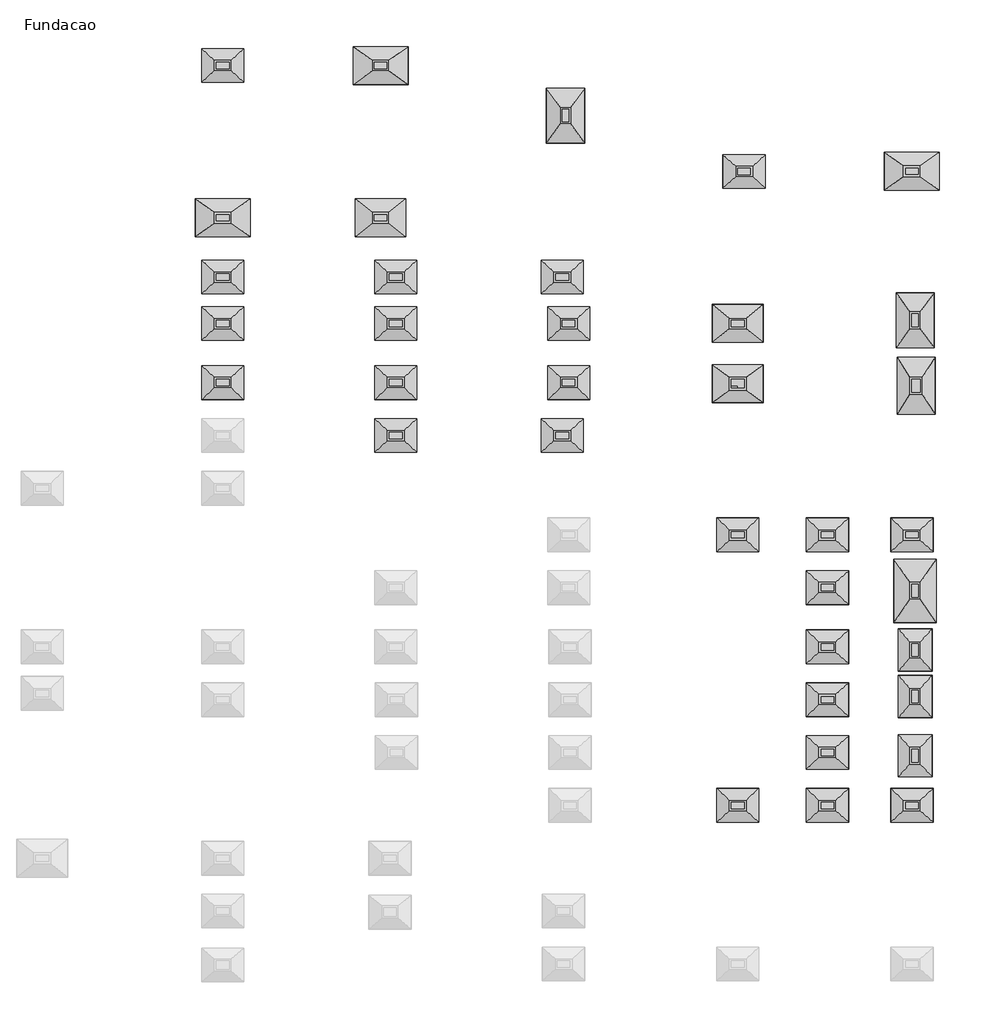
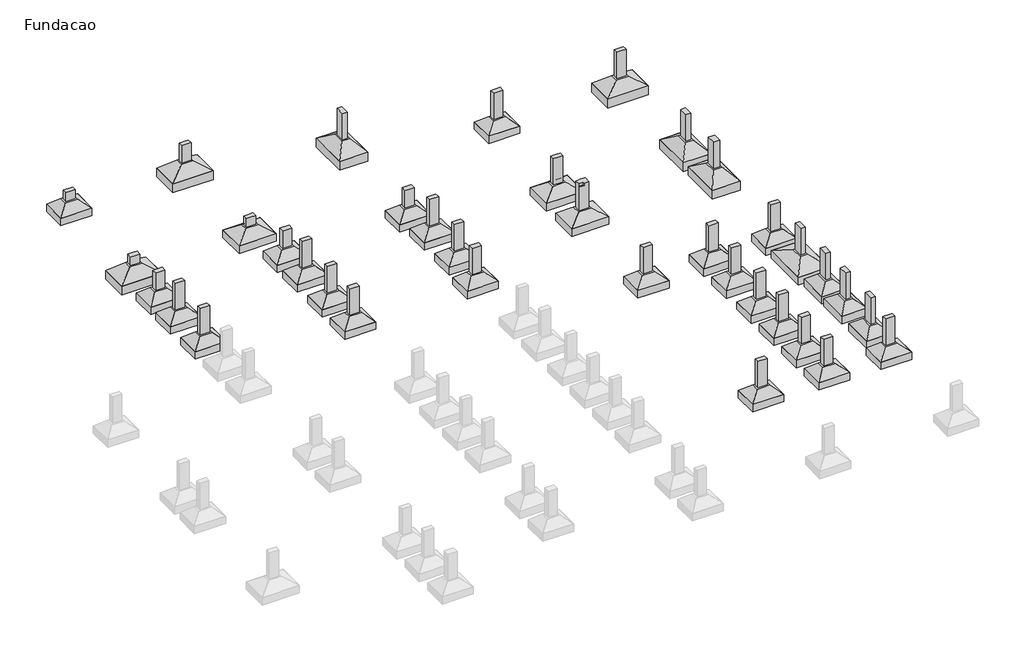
# One storey, part 2 of 2: 36 columns, 36 fasteners.
"""IFC4 building model written with IfcOpenShell, lengths in millimetres."""

from ifc_helpers import new_model, si_unit, origin, place, context, project, spatial, faceted_brep, transform, mapped, element, save
from components import tqs_pilar_retangular_15_0x30_0_0037dfdc, s1_6223030e, s14_25b32baf, s15_ff27a8e9, s19_83dd7731, s20_9b2413b7, s33_03b0cf3e

model = new_model("IFC4")

# Units and contexts
model_context = context("Model", 3, world=origin())
ifc_project = project(units=[si_unit("LENGTHUNIT", "METRE", prefix="MILLI")], contexts=[model_context])

# Site, building, storey
site = spatial("IfcSite", under=ifc_project)
building = spatial("IfcBuilding", under=site)
storey = spatial("IfcBuildingStorey", under=building, Name="Fundacao", Elevation=0.0)

# Columns
placement = place(None, origin())
element("IfcColumn", 1, ObjectType="TQS - Pilar retangular : 15,0x30,0", at=placement, inside=storey, context=model_context, shape_type="Brep", body=[
    faceted_brep([(52120.0, 6220.0, 0.0), (52420.0, 6220.0, 0.0), (52420.0, 6070.0, 0.0), (52120.0, 6070.0, 0.0), (52120.0, 6220.0, 900.0), (52420.0, 6220.0, 900.0), (52420.0, 6220.0, 800.0), (52420.0, 6070.0, 900.0), (52120.0, 6070.0, 900.0)], [[[0, 1, 2, 3]], [[4, 5, 6, 1, 0]], [[5, 7, 2, 1, 6]], [[7, 8, 3, 2]], [[8, 4, 0, 3]], [[4, 8, 7, 5]]]),
])
element("IfcColumn", 2, ObjectType="TQS - Pilar retangular : 15,0x30,0", at=placement, inside=storey, context=model_context, shape_type="Brep", body=[
    faceted_brep([(45850.0, 9820.0, 0.0), (46150.0, 9820.0, 0.0), (46150.0, 9670.0, 0.0), (45850.0, 9670.0, 0.0), (45850.0, 9820.0, 900.0), (46150.0, 9820.0, 900.0), (46150.0, 9820.0, 800.0), (46150.0, 9670.0, 900.0), (46150.0, 9670.0, 800.0), (45850.0, 9670.0, 900.0)], [[[0, 1, 2, 3]], [[4, 5, 6, 1, 0]], [[5, 7, 8, 2, 1, 6]], [[7, 9, 3, 2, 8]], [[9, 4, 0, 3]], [[4, 9, 7, 5]]]),
])
element("IfcColumn", 3, ObjectType="TQS - Pilar retangular : 15,0x30,0", at=placement, inside=storey, context=model_context, shape_type="Brep", body=[
    faceted_brep([(50000.0, 7470.0, 0.0), (50300.0, 7470.0, 0.0), (50300.0, 7320.0, 0.0), (50000.0, 7320.0, 0.0), (50000.0, 7470.0, 900.0), (50150.0, 7470.0, 900.0), (50300.0, 7470.0, 900.0), (50300.0, 7470.0, 500.0), (50000.0, 7470.0, 800.0), (50300.0, 7320.0, 900.0), (50300.0, 7320.0, 500.0), (50000.0, 7320.0, 900.0), (50000.0, 7320.0, 800.0)], [[[0, 1, 2, 3]], [[4, 5, 6, 7, 1, 0, 8]], [[6, 9, 10, 2, 1, 7]], [[9, 11, 12, 3, 2, 10]], [[11, 4, 8, 0, 3, 12]], [[4, 11, 9, 6, 5]]]),
])
element("IfcColumn", 4, ObjectType="TQS - Pilar retangular : 15,0x30,0", at=placement, inside=storey, context=model_context, shape_type="Brep", body=[
    faceted_brep([(52120.0, 7470.0, 0.0), (52420.0, 7470.0, 0.0), (52420.0, 7320.0, 0.0), (52120.0, 7320.0, 0.0), (52120.0, 7470.0, 900.0), (52420.0, 7470.0, 900.0), (52420.0, 7470.0, 500.0), (52120.0, 7470.0, 500.0), (52420.0, 7320.0, 900.0), (52420.0, 7320.0, 800.0), (52420.0, 7320.0, 500.0), (52120.0, 7320.0, 900.0), (52120.0, 7320.0, 500.0)], [[[0, 1, 2, 3]], [[4, 5, 6, 1, 0, 7]], [[5, 8, 9, 10, 2, 1, 6]], [[8, 11, 12, 3, 2, 10, 9]], [[11, 4, 7, 0, 3, 12]], [[4, 11, 8, 5]]]),
])
element("IfcColumn", 5, ObjectType="TQS - Pilar retangular : 15,0x30,0", at=placement, inside=storey, context=model_context, shape_type="Brep", body=[
    faceted_brep([(46000.0, 11070.0, 0.0), (46300.0, 11070.0, 0.0), (46300.0, 10920.0, 0.0), (46000.0, 10920.0, 0.0), (46000.0, 11070.0, 900.0), (46300.0, 11070.0, 900.0), (46300.0, 11070.0, 500.0), (46000.0, 11070.0, 500.0), (46300.0, 10920.0, 900.0), (46300.0, 10920.0, 500.0), (46000.0, 10920.0, 900.0), (46000.0, 10920.0, 800.0), (46000.0, 10920.0, 500.0)], [[[0, 1, 2, 3]], [[4, 5, 6, 1, 0, 7]], [[5, 8, 9, 2, 1, 6]], [[8, 10, 11, 12, 3, 2, 9]], [[10, 4, 7, 0, 3, 12, 11]], [[4, 10, 8, 5]]]),
])
element("IfcColumn", 6, ObjectType="TQS - Pilar retangular : 15,0x30,0", at=placement, inside=storey, context=model_context, shape_type="Brep", body=[
    faceted_brep([(37820.0, 11070.0, 0.0), (38120.0, 11070.0, 0.0), (38120.0, 10920.0, 0.0), (37820.0, 10920.0, 0.0), (37820.0, 11070.0, 900.0), (37970.0, 11070.0, 900.0), (38120.0, 11070.0, 900.0), (38120.0, 11070.0, 500.0), (37820.0, 11070.0, 500.0), (38120.0, 10920.0, 900.0), (38120.0, 10920.0, 500.0), (37820.0, 10920.0, 900.0), (37820.0, 10920.0, 800.0)], [[[0, 1, 2, 3]], [[4, 5, 6, 7, 1, 0, 8]], [[6, 9, 10, 2, 1, 7]], [[9, 11, 12, 3, 2, 10]], [[11, 4, 8, 0, 3, 12]], [[4, 11, 9, 6, 5]]]),
])
element("IfcColumn", 7, ObjectType="TQS - Pilar retangular : 15,0x30,0", at=placement, inside=storey, context=model_context, shape_type="Brep", body=[
    faceted_brep([(41910.0, 11070.0, 0.0), (42210.0, 11070.0, 0.0), (42210.0, 10920.0, 0.0), (41910.0, 10920.0, 0.0), (41910.0, 11070.0, 900.0), (42210.0, 11070.0, 900.0), (42210.0, 11070.0, 500.0), (41910.0, 11070.0, 500.0), (42210.0, 10920.0, 900.0), (42210.0, 10920.0, 500.0), (41910.0, 10920.0, 900.0), (41910.0, 10920.0, 500.0)], [[[0, 1, 2, 3]], [[4, 5, 6, 1, 0, 7]], [[5, 8, 9, 2, 1, 6]], [[8, 10, 11, 3, 2, 9]], [[10, 4, 7, 0, 3, 11]], [[4, 10, 8, 5]]]),
])
element("IfcColumn", 8, ObjectType="TQS - Pilar retangular : 15,0x30,0", at=placement, inside=storey, context=model_context, shape_type="Brep", body=[
    faceted_brep([(37820.0, 12470.0, 0.0), (38120.0, 12470.0, 0.0), (38120.0, 12320.0, 0.0), (37820.0, 12320.0, 0.0), (37820.0, 12470.0, 200.0), (37820.0, 12470.0, 600.0), (37820.0, 12470.0, 900.0), (38120.0, 12470.0, 900.0), (38120.0, 12470.0, 600.0), (38120.0, 12470.0, 500.0), (38120.0, 12320.0, 900.0), (38120.0, 12320.0, 600.0), (38120.0, 12320.0, 500.0), (37970.0, 12320.0, 900.0), (37820.0, 12320.0, 900.0), (37820.0, 12320.0, 500.0)], [[[0, 1, 2, 3]], [[1, 0, 4, 5, 6, 7, 8, 9]], [[2, 1, 9, 8, 7, 10, 11, 12]], [[3, 2, 12, 11, 10, 13, 14, 15]], [[0, 3, 15, 14, 6, 5, 4]], [[7, 6, 14, 13, 10]]]),
])
element("IfcColumn", 9, ObjectType="TQS - Pilar retangular : 15,0x30,0", at=placement, inside=storey, context=model_context, shape_type="Brep", body=[
    faceted_brep([(46000.0, 12470.0, 0.0), (46300.0, 12470.0, 0.0), (46300.0, 12320.0, 0.0), (46000.0, 12320.0, 0.0), (46000.0, 12470.0, 900.0), (46300.0, 12470.0, 900.0), (46300.0, 12470.0, 500.0), (46000.0, 12470.0, 200.0), (46000.0, 12470.0, 600.0), (46300.0, 12320.0, 900.0), (46300.0, 12320.0, 500.0), (46000.0, 12320.0, 900.0), (46000.0, 12320.0, 600.0), (46000.0, 12320.0, 500.0)], [[[0, 1, 2, 3]], [[4, 5, 6, 1, 0, 7, 8]], [[5, 9, 10, 2, 1, 6]], [[9, 11, 12, 13, 3, 2, 10]], [[11, 4, 8, 7, 0, 3, 13, 12]], [[4, 11, 9, 5]]]),
])
element("IfcColumn", 10, ObjectType="TQS - Pilar retangular : 15,0x30,0", at=placement, inside=storey, context=model_context, shape_type="Brep", body=[
    faceted_brep([(50000.0, 12470.0, 0.0), (50300.0, 12470.0, 0.0), (50300.0, 12320.0, 0.0), (50000.0, 12320.0, 0.0), (50000.0, 12470.0, 900.0), (50150.0, 12470.0, 900.0), (50300.0, 12470.0, 900.0), (50300.0, 12470.0, 500.0), (50000.0, 12470.0, 500.0), (50300.0, 12320.0, 900.0), (50300.0, 12320.0, 500.0), (50150.0, 12320.0, 900.0), (50000.0, 12320.0, 900.0), (50000.0, 12320.0, 500.0)], [[[0, 1, 2, 3]], [[4, 5, 6, 7, 1, 0, 8]], [[6, 9, 10, 2, 1, 7]], [[9, 11, 12, 13, 3, 2, 10]], [[12, 4, 8, 0, 3, 13]], [[4, 12, 11, 9, 6, 5]]]),
])
element("IfcColumn", 11, ObjectType="TQS - Pilar retangular : 15,0x30,0", at=placement, inside=storey, context=model_context, shape_type="Brep", body=[
    faceted_brep([(50150.0, 16063.3437467, 0.0), (50450.0, 16063.3437467, 0.0), (50450.0, 15913.3437467, 0.0), (50150.0, 15913.3437467, 0.0), (50150.0, 16063.3437467, 500.0), (50150.0, 16063.3437467, 900.0), (50450.0, 16063.3437467, 900.0), (50450.0, 16063.3437467, 500.0), (50450.0, 15920.0, 900.0), (50450.0, 15913.3437467, 900.0), (50450.0, 15913.3437467, 800.0), (50300.0, 15913.3437467, 900.0), (50150.0, 15913.3437467, 900.0), (50150.0, 15913.3437467, 500.0)], [[[0, 1, 2, 3]], [[1, 0, 4, 5, 6, 7]], [[2, 1, 7, 6, 8, 9, 10]], [[3, 2, 10, 9, 11, 12, 13]], [[0, 3, 13, 12, 5, 4]], [[6, 5, 12, 11, 9, 8]]]),
])
element("IfcColumn", 12, ObjectType="TQS - Pilar retangular : 15,0x30,0", at=placement, inside=storey, context=model_context, shape_type="Brep", body=[
    faceted_brep([(54120.0, 16070.0, 0.0), (54420.0, 16070.0, 0.0), (54420.0, 15920.0, 0.0), (54120.0, 15920.0, 0.0), (54120.0, 16070.0, 900.0), (54420.0, 16070.0, 900.0), (54120.0, 16070.0, 500.0), (54420.0, 15920.0, 900.0), (54420.0, 15920.0, 500.0), (54270.0, 15920.0, 900.0), (54120.0, 15920.0, 900.0), (54120.0, 15920.0, 500.0)], [[[0, 1, 2, 3]], [[4, 5, 1, 0, 6]], [[5, 7, 8, 2, 1]], [[7, 9, 10, 11, 3, 2, 8]], [[10, 4, 6, 0, 3, 11]], [[4, 10, 9, 7, 5]]]),
])
element("IfcColumn", 13, ObjectType="TQS - Pilar retangular : 15,0x30,0", at=placement, inside=storey, context=model_context, shape_type="Brep", body=[
    faceted_brep([(54120.0, 7470.0, 0.0), (54420.0, 7470.0, 0.0), (54420.0, 7320.0, 0.0), (54120.0, 7320.0, 0.0), (54120.0, 7470.0, 900.0), (54270.0, 7470.0, 900.0), (54420.0, 7470.0, 900.0), (54420.0, 7470.0, 500.0), (54120.0, 7470.0, 500.0), (54420.0, 7320.0, 900.0), (54120.0, 7320.0, 900.0), (54120.0, 7320.0, 500.0)], [[[0, 1, 2, 3]], [[4, 5, 6, 7, 1, 0, 8]], [[6, 9, 2, 1, 7]], [[9, 10, 11, 3, 2]], [[10, 4, 8, 0, 3, 11]], [[4, 10, 9, 6, 5]]]),
])
element("IfcColumn", 14, ObjectType="TQS - Pilar retangular : 15,0x30,0", at=placement, inside=storey, context=model_context, shape_type="Brep", body=[
    faceted_brep([(54420.0, 12620.0, 0.0), (54420.0, 12320.0, 0.0), (54270.0, 12320.0, 0.0), (54270.0, 12620.0, 0.0), (54420.0, 12620.0, 900.0), (54420.0, 12320.0, 900.0), (54420.0, 12320.0, 500.0), (54420.0, 12620.0, 500.0), (54270.0, 12320.0, 900.0), (54270.0, 12320.0, 500.0), (54270.0, 12620.0, 900.0), (54270.0, 12620.0, 500.0)], [[[0, 1, 2, 3]], [[4, 5, 6, 1, 0, 7]], [[5, 8, 9, 2, 1, 6]], [[8, 10, 11, 3, 2, 9]], [[10, 4, 7, 0, 3, 11]], [[4, 10, 8, 5]]]),
])
element("IfcColumn", 15, ObjectType="TQS - Pilar retangular : 15,0x30,0", at=placement, inside=storey, context=model_context, shape_type="Brep", body=[
    faceted_brep([(42210.0, 12320.0, 0.0), (41910.0, 12320.0, 0.0), (41910.0, 12470.0, 0.0), (42210.0, 12470.0, 0.0), (42210.0, 12320.0, 500.0), (42210.0, 12320.0, 600.0), (42210.0, 12320.0, 900.0), (41910.0, 12320.0, 900.0), (41910.0, 12320.0, 600.0), (41910.0, 12320.0, 500.0), (41910.0, 12470.0, 900.0), (41910.0, 12470.0, 600.0), (41910.0, 12470.0, 500.0), (42210.0, 12470.0, 900.0), (42210.0, 12470.0, 600.0), (42210.0, 12470.0, 500.0)], [[[0, 1, 2, 3]], [[1, 0, 4, 5, 6, 7, 8, 9]], [[2, 1, 9, 8, 7, 10, 11, 12]], [[3, 2, 12, 11, 10, 13, 14, 15]], [[0, 3, 15, 14, 13, 6, 5, 4]], [[7, 6, 13, 10]]]),
])
element("IfcColumn", 16, ObjectType="TQS - Pilar retangular : 15,0x30,0", at=placement, inside=storey, context=model_context, shape_type="Brep", body=[
    faceted_brep([(42210.0, 13420.0, 0.0), (41910.0, 13420.0, 0.0), (41910.0, 13570.0, 0.0), (42210.0, 13570.0, 0.0), (42210.0, 13420.0, 600.0), (41910.0, 13420.0, 600.0), (41910.0, 13420.0, 200.0), (42210.0, 13420.0, 200.0), (41910.0, 13570.0, 600.0), (41910.0, 13570.0, 200.0), (42210.0, 13570.0, 600.0), (42210.0, 13570.0, 200.0)], [[[0, 1, 2, 3]], [[4, 5, 6, 1, 0, 7]], [[5, 8, 9, 2, 1, 6]], [[8, 10, 11, 3, 2, 9]], [[10, 4, 7, 0, 3, 11]], [[4, 10, 8, 5]]]),
])
element("IfcColumn", 17, ObjectType="TQS - Pilar retangular : 15,0x30,0", at=placement, inside=storey, context=model_context, shape_type="Brep", body=[
    faceted_brep([(46150.0, 13420.0, 0.0), (45850.0, 13420.0, 0.0), (45850.0, 13570.0, 0.0), (46150.0, 13570.0, 0.0), (46150.0, 13420.0, 600.0), (46000.0, 13420.0, 600.0), (45850.0, 13420.0, 600.0), (45850.0, 13420.0, 200.0), (46150.0, 13420.0, 200.0), (45850.0, 13570.0, 600.0), (45850.0, 13570.0, 200.0), (46000.0, 13570.0, 600.0), (46150.0, 13570.0, 600.0), (46150.0, 13570.0, 200.0)], [[[0, 1, 2, 3]], [[4, 5, 6, 7, 1, 0, 8]], [[6, 9, 10, 2, 1, 7]], [[9, 11, 12, 13, 3, 2, 10]], [[12, 4, 8, 0, 3, 13]], [[4, 12, 11, 9, 6, 5]]]),
])
element("IfcColumn", 18, ObjectType="TQS - Pilar retangular : 15,0x30,0", at=placement, inside=storey, context=model_context, shape_type="Brep", body=[
    faceted_brep([(38120.0, 13420.0, 0.0), (37820.0, 13420.0, 0.0), (37820.0, 13570.0, 0.0), (37970.0, 13570.0, 0.0), (38120.0, 13570.0, 0.0), (38120.0, 13420.0, 600.0), (37970.0, 13420.0, 600.0), (37820.0, 13420.0, 600.0), (37820.0, 13420.0, 200.0), (38120.0, 13420.0, 200.0), (37820.0, 13570.0, 600.0), (37820.0, 13570.0, 300.0), (38120.0, 13570.0, 600.0), (38120.0, 13570.0, 200.0)], [[[0, 1, 2, 3, 4]], [[5, 6, 7, 8, 1, 0, 9]], [[7, 10, 11, 2, 1, 8]], [[10, 12, 13, 4, 3, 2, 11]], [[12, 5, 9, 0, 4, 13]], [[5, 12, 10, 7, 6]]]),
])
element("IfcColumn", 19, ObjectType="TQS - Pilar retangular : 15,0x30,0", at=placement, inside=storey, context=model_context, shape_type="Brep", body=[
    faceted_brep([(38120.0, 14820.0, 0.0), (37970.0, 14820.0, 0.0), (37820.0, 14820.0, 0.0), (37820.0, 14970.0, 0.0), (37970.0, 14970.0, 0.0), (38120.0, 14970.0, 0.0), (38120.0, 14820.0, 300.0), (37970.0, 14820.0, 300.0), (37820.0, 14820.0, 300.0), (37820.0, 14970.0, 300.0), (37970.0, 14970.0, 300.0), (38120.0, 14970.0, 300.0)], [[[0, 1, 2, 3, 4, 5]], [[6, 7, 8, 2, 1, 0]], [[8, 9, 3, 2]], [[9, 10, 11, 5, 4, 3]], [[11, 6, 0, 5]], [[6, 11, 10, 9, 8, 7]]]),
])
element("IfcColumn", 20, ObjectType="TQS - Pilar retangular : 15,0x30,0", at=placement, inside=storey, context=model_context, shape_type="Brep", body=[
    faceted_brep([(41850.0, 14820.0, 0.0), (41700.0, 14820.0, 0.0), (41550.0, 14820.0, 0.0), (41550.0, 14970.0, 0.0), (41700.0, 14970.0, 0.0), (41850.0, 14970.0, 0.0), (41850.0, 14820.0, 300.0), (41700.0, 14820.0, 300.0), (41550.0, 14820.0, 300.0), (41550.0, 14970.0, 300.0), (41700.0, 14970.0, 300.0), (41850.0, 14970.0, 300.0)], [[[0, 1, 2, 3, 4, 5]], [[6, 7, 8, 2, 1, 0]], [[8, 9, 3, 2]], [[9, 10, 11, 5, 4, 3]], [[11, 6, 0, 5]], [[6, 11, 10, 9, 8, 7]]]),
])
element("IfcColumn", 21, ObjectType="TQS - Pilar retangular : 15,0x30,0", at=placement, inside=storey, context=model_context, shape_type="Brep", body=[
    faceted_brep([(38120.0, 18420.0, 0.0), (37820.0, 18420.0, 0.0), (37820.0, 18570.0, 0.0), (38120.0, 18570.0, 0.0), (38120.0, 18420.0, 300.0), (37970.0, 18420.0, 300.0), (37820.0, 18420.0, 300.0), (37820.0, 18570.0, 300.0), (38120.0, 18570.0, 300.0)], [[[0, 1, 2, 3]], [[4, 5, 6, 1, 0]], [[6, 7, 2, 1]], [[7, 8, 3, 2]], [[8, 4, 0, 3]], [[4, 8, 7, 6, 5]]]),
])
element("IfcColumn", 22, ObjectType="TQS - Pilar retangular : 15,0x30,0", at=placement, inside=storey, context=model_context, shape_type="Brep", body=[
    faceted_brep([(41850.0, 18420.0, 0.0), (41845.0523457, 18420.0, 0.0), (41700.0, 18420.0, 0.0), (41550.0, 18420.0, 0.0), (41550.0, 18570.0, 0.0), (41700.0, 18570.0, 0.0), (41733.5789117, 18570.0, 0.0), (41850.0, 18570.0, 0.0), (41850.0, 18420.0, 600.0), (41845.0523457, 18420.0, 600.0), (41550.0, 18420.0, 600.0), (41550.0, 18420.0, 300.0), (41850.0, 18420.0, 200.0), (41550.0, 18570.0, 600.0), (41550.0, 18570.0, 300.0), (41733.5789117, 18570.0, 600.0), (41850.0, 18570.0, 600.0), (41850.0, 18570.0, 200.0)], [[[0, 1, 2, 3, 4, 5, 6, 7]], [[8, 9, 10, 11, 3, 2, 1, 0, 12]], [[10, 13, 14, 4, 3, 11]], [[13, 15, 16, 17, 7, 6, 5, 4, 14]], [[16, 8, 12, 0, 7, 17]], [[8, 16, 15, 13, 10, 9]]]),
])
element("IfcColumn", 23, ObjectType="TQS - Pilar retangular : 15,0x30,0", at=placement, inside=storey, context=model_context, shape_type="Brep", body=[
    faceted_brep([(46000.0, 17163.2464716, 0.0), (46000.0, 17463.2464716, 0.0), (46150.0, 17463.2464716, 0.0), (46150.0, 17163.2464716, 0.0), (46000.0, 17163.2464716, 900.0), (46000.0, 17463.2464716, 900.0), (46000.0, 17163.2464716, 200.0), (46000.0, 17163.2464716, 600.0), (46150.0, 17463.2464716, 900.0), (46150.0, 17163.2464716, 900.0), (46150.0, 17163.2464716, 600.0), (46150.0, 17163.2464716, 200.0)], [[[0, 1, 2, 3]], [[4, 5, 1, 0, 6, 7]], [[5, 8, 2, 1]], [[8, 9, 10, 11, 3, 2]], [[9, 4, 7, 6, 0, 3, 11, 10]], [[4, 9, 8, 5]]]),
])
element("IfcColumn", 24, ObjectType="TQS - Pilar retangular : 15,0x30,0", at=placement, inside=storey, context=model_context, shape_type="Brep", body=[
    faceted_brep([(54270.0, 5920.0, 0.0), (54270.0, 6220.0, 0.0), (54420.0, 6220.0, 0.0), (54420.0, 5920.0, 0.0), (54270.0, 5920.0, 900.0), (54270.0, 6220.0, 900.0), (54270.0, 6220.0, 800.0), (54420.0, 6220.0, 900.0), (54420.0, 6220.0, 800.0), (54420.0, 5920.0, 900.0)], [[[0, 1, 2, 3]], [[4, 5, 6, 1, 0]], [[5, 7, 8, 2, 1, 6]], [[7, 9, 3, 2, 8]], [[9, 4, 0, 3]], [[4, 9, 7, 5]]]),
])
tqs_pilar_retangular_15_0x30_0_shape = tqs_pilar_retangular_15_0x30_0_0037dfdc(model_context)
element("IfcColumn", 25, ObjectType="TQS - Pilar retangular : 15,0x30,0", at=placement, inside=storey, context=model_context, shape_type="MappedRepresentation", body=[
    mapped(tqs_pilar_retangular_15_0x30_0_shape, transform((52270.0, 2245.0, 0.0), x_axis=(0.0, 1.0, 0.0), y_axis=(-1.0, 0.0, 0.0), z_axis=(0.0, 0.0, 1.0))),
])
element("IfcColumn", 26, ObjectType="TQS - Pilar retangular : 15,0x30,0", at=placement, inside=storey, context=model_context, shape_type="MappedRepresentation", body=[
    mapped(tqs_pilar_retangular_15_0x30_0_shape, transform((52270.0, 995.0, 0.0), x_axis=(0.0, 1.0, 0.0), y_axis=(-1.0, 0.0, 0.0), z_axis=(0.0, 0.0, 1.0))),
])
element("IfcColumn", 27, ObjectType="TQS - Pilar retangular : 15,0x30,0", at=placement, inside=storey, context=model_context, shape_type="MappedRepresentation", body=[
    mapped(tqs_pilar_retangular_15_0x30_0_shape, transform((52270.0, 3495.0, 0.0), x_axis=(0.0, 1.0, 0.0), y_axis=(-1.0, 0.0, 0.0), z_axis=(0.0, 0.0, 1.0))),
])
element("IfcColumn", 28, ObjectType="TQS - Pilar retangular : 15,0x30,0", at=placement, inside=storey, context=model_context, shape_type="MappedRepresentation", body=[
    mapped(tqs_pilar_retangular_15_0x30_0_shape, transform((52270.0, 4745.0, 0.0), x_axis=(0.0, 1.0, 0.0), y_axis=(-1.0, 0.0, 0.0), z_axis=(0.0, 0.0, 1.0))),
])
element("IfcColumn", 29, ObjectType="TQS - Pilar retangular : 15,0x30,0", at=placement, inside=storey, context=model_context, shape_type="MappedRepresentation", body=[
    mapped(tqs_pilar_retangular_15_0x30_0_shape, transform((42060.0, 9745.0, 0.0), x_axis=(0.0, 1.0, 0.0), y_axis=(-1.0, 0.0, 0.0), z_axis=(0.0, 0.0, 1.0))),
])
element("IfcColumn", 30, ObjectType="TQS - Pilar retangular : 15,0x30,0", at=placement, inside=storey, context=model_context, shape_type="MappedRepresentation", body=[
    mapped(tqs_pilar_retangular_15_0x30_0_shape, transform((50150.0, 995.0, 0.0), x_axis=(0.0, 1.0, 0.0), y_axis=(-1.0, 0.0, 0.0), z_axis=(0.0, 0.0, 1.0))),
])
element("IfcColumn", 31, ObjectType="TQS - Pilar retangular : 15,0x30,0", at=placement, inside=storey, context=model_context, shape_type="MappedRepresentation", body=[
    mapped(tqs_pilar_retangular_15_0x30_0_shape, transform((54270.0, 995.0, 0.0), x_axis=(0.0, -1.0, 0.0), y_axis=(1.0, 0.0, 0.0), z_axis=(0.0, 0.0, 1.0))),
])
element("IfcColumn", 32, ObjectType="TQS - Pilar retangular : 15,0x30,0", at=placement, inside=storey, context=model_context, shape_type="MappedRepresentation", body=[
    mapped(tqs_pilar_retangular_15_0x30_0_shape, transform((54345.0, 2170.0, 0.0), x_axis=(-1.0, 0.0, 0.0), y_axis=(0.0, -1.0, 0.0), z_axis=(0.0, 0.0, 1.0))),
])
element("IfcColumn", 33, ObjectType="TQS - Pilar retangular : 15,0x30,0", at=placement, inside=storey, context=model_context, shape_type="MappedRepresentation", body=[
    mapped(tqs_pilar_retangular_15_0x30_0_shape, transform((54345.0, 3570.0, 0.0), x_axis=(-1.0, 0.0, 0.0), y_axis=(0.0, -1.0, 0.0), z_axis=(0.0, 0.0, 1.0))),
])
element("IfcColumn", 34, ObjectType="TQS - Pilar retangular : 15,0x30,0", at=placement, inside=storey, context=model_context, shape_type="MappedRepresentation", body=[
    mapped(tqs_pilar_retangular_15_0x30_0_shape, transform((54345.0, 4670.0, 0.0), x_axis=(-1.0, 0.0, 0.0), y_axis=(0.0, -1.0, 0.0), z_axis=(0.0, 0.0, 1.0))),
])
element("IfcColumn", 35, ObjectType="TQS - Pilar retangular : 20,0x30,0", at=placement, inside=storey, context=model_context, shape_type="Brep", body=[
    faceted_brep([(50000.0, 11070.0, 0.0), (50300.0, 11070.0, 0.0), (50300.0, 10870.0, 0.0), (50000.0, 10870.0, 0.0), (50000.0, 11070.0, 500.0), (50000.0, 11070.0, 900.0), (50150.0, 11070.0, 900.0), (50300.0, 11070.0, 900.0), (50300.0, 11070.0, 500.0), (50300.0, 10870.0, 900.0), (50300.0, 10870.0, 500.0), (50149.9990463, 10870.0, 900.0), (50150.0, 10870.0, 799.7190727), (50000.0, 10870.0, 810.9690754), (50000.0, 10920.0, 810.9690754), (50000.0, 10920.0, 900.0), (50150.0, 10920.0, 900.0), (50150.0, 10920.0, 799.7190727)], [[[0, 1, 2, 3]], [[1, 0, 4, 5, 6, 7, 8]], [[2, 1, 8, 7, 9, 10]], [[3, 2, 10, 9, 11, 12, 13]], [[0, 3, 13, 14, 15, 5, 4]], [[7, 6, 5, 15, 16, 11, 9]], [[12, 17, 14, 13]], [[17, 16, 15, 14]], [[16, 17, 12, 11]]]),
])
element("IfcColumn", 36, ObjectType="TQS - Pilar retangular : 20,0x30,0", at=placement, inside=storey, context=model_context, shape_type="Brep", body=[
    faceted_brep([(54470.0, 11070.0, 0.0), (54470.0, 10770.0, 0.0), (54270.0, 10770.0, 0.0), (54270.0, 11070.0, 0.0), (54470.0, 11070.0, 900.0), (54470.0, 10770.0, 900.0), (54420.0, 10770.0, 900.0), (54270.0, 10770.0, 900.0), (54270.0, 10770.0, 500.0), (54270.0, 11070.0, 900.0), (54270.0, 11070.0, 500.0), (54420.0, 11070.0, 900.0)], [[[0, 1, 2, 3]], [[4, 5, 1, 0]], [[5, 6, 7, 8, 2, 1]], [[7, 9, 10, 3, 2, 8]], [[9, 11, 4, 0, 3, 10]], [[4, 11, 9, 7, 6, 5]]]),
])

# Fasteners
s1_shape = s1_6223030e(model_context)
element("IfcFastener", 37, ObjectType="TQS - Sapata : S1", at=placement, inside=storey, context=model_context, shape_type="MappedRepresentation", body=[
    mapped(s1_shape, transform((38170.0, 18295.0, 0.0), x_axis=(0.0, -1.0, 0.0), y_axis=(1.0, 0.0, 0.0), z_axis=(0.0, 0.0, 1.0))),
])
element("IfcFastener", 38, ObjectType="TQS - Sapata : S10", at=placement, inside=storey, context=model_context, shape_type="MappedRepresentation", body=[
    mapped(s1_shape, transform((46200.0, 13295.0, 0.0), x_axis=(0.0, -1.0, 0.0), y_axis=(1.0, 0.0, 0.0), z_axis=(0.0, 0.0, 1.0))),
])
element("IfcFastener", 39, ObjectType="TQS - Sapata : S11", at=placement, inside=storey, context=model_context, shape_type="MappedRepresentation", body=[
    mapped(s1_shape, transform((37770.0, 12595.0, 0.0), x_axis=(0.0, 1.0, 0.0), y_axis=(-1.0, 0.0, 0.0), z_axis=(0.0, 0.0, 1.0))),
])
element("IfcFastener", 40, ObjectType="TQS - Sapata : S12", at=placement, inside=storey, context=model_context, shape_type="MappedRepresentation", body=[
    mapped(s1_shape, transform((42260.0, 12195.0, 0.0), x_axis=(0.0, -1.0, 0.0), y_axis=(1.0, 0.0, 0.0), z_axis=(0.0, 0.0, 1.0))),
])
element("IfcFastener", 41, ObjectType="TQS - Sapata : S13", at=placement, inside=storey, context=model_context, shape_type="MappedRepresentation", body=[
    mapped(s1_shape, transform((45950.0, 12595.0, 0.0), x_axis=(0.0, 1.0, 0.0), y_axis=(-1.0, 0.0, 0.0), z_axis=(0.0, 0.0, 1.0))),
])
s14_shape = s14_25b32baf(model_context)
element("IfcFastener", 42, ObjectType="TQS - Sapata : S14", at=placement, inside=storey, context=model_context, shape_type="MappedRepresentation", body=[
    mapped(s14_shape, transform((49950.0, 12595.0, 0.0), x_axis=(0.0, 1.0, 0.0), y_axis=(-1.0, 0.0, 0.0), z_axis=(0.0, 0.0, 1.0))),
])
s15_shape = s15_ff27a8e9(model_context)
element("IfcFastener", 43, ObjectType="TQS - Sapata : S15", at=placement, inside=storey, context=model_context, shape_type="MappedRepresentation", body=[
    mapped(s15_shape, transform((54545.0, 12670.0, 0.0), x_axis=(1.0, 0.0, 0.0), y_axis=(0.0, 1.0, 0.0), z_axis=(0.0, 0.0, 1.0))),
])
element("IfcFastener", 44, ObjectType="TQS - Sapata : S16", at=placement, inside=storey, context=model_context, shape_type="MappedRepresentation", body=[
    mapped(s1_shape, transform((37770.0, 11195.0, 0.0), x_axis=(0.0, 1.0, 0.0), y_axis=(-1.0, 0.0, 0.0), z_axis=(0.0, 0.0, 1.0))),
])
element("IfcFastener", 45, ObjectType="TQS - Sapata : S17", at=placement, inside=storey, context=model_context, shape_type="MappedRepresentation", body=[
    mapped(s1_shape, transform((41860.0, 11195.0, 0.0), x_axis=(0.0, 1.0, 0.0), y_axis=(-1.0, 0.0, 0.0), z_axis=(0.0, 0.0, 1.0))),
])
element("IfcFastener", 46, ObjectType="TQS - Sapata : S18", at=placement, inside=storey, context=model_context, shape_type="MappedRepresentation", body=[
    mapped(s1_shape, transform((45950.0, 11195.0, 0.0), x_axis=(0.0, 1.0, 0.0), y_axis=(-1.0, 0.0, 0.0), z_axis=(0.0, 0.0, 1.0))),
])
s19_shape = s19_83dd7731(model_context)
element("IfcFastener", 47, ObjectType="TQS - Sapata : S19", at=placement, inside=storey, context=model_context, shape_type="MappedRepresentation", body=[
    mapped(s19_shape, transform((49950.0, 11170.0, 0.0), x_axis=(0.0, 1.0, 0.0), y_axis=(-1.0, 0.0, 0.0), z_axis=(0.0, 0.0, 1.0))),
])
element("IfcFastener", 48, ObjectType="TQS - Sapata : S2", at=placement, inside=storey, context=model_context, shape_type="MappedRepresentation", body=[
    mapped(s15_shape, transform((41900.0, 18295.0, 0.0), x_axis=(0.0, -1.0, 0.0), y_axis=(1.0, 0.0, 0.0), z_axis=(0.0, 0.0, 1.0))),
])
s20_shape = s20_9b2413b7(model_context)
element("IfcFastener", 49, ObjectType="TQS - Sapata : S20", at=placement, inside=storey, context=model_context, shape_type="MappedRepresentation", body=[
    mapped(s20_shape, transform((54570.0, 11120.0, 0.0), x_axis=(1.0, 0.0, 0.0), y_axis=(0.0, 1.0, 0.0), z_axis=(0.0, 0.0, 1.0))),
])
element("IfcFastener", 50, ObjectType="TQS - Sapata : S22", at=placement, inside=storey, context=model_context, shape_type="MappedRepresentation", body=[
    mapped(s1_shape, transform((41860.0, 9945.0, 0.0), x_axis=(0.0, 1.0, 0.0), y_axis=(-1.0, 0.0, 0.0), z_axis=(0.0, 0.0, 1.0))),
])
element("IfcFastener", 51, ObjectType="TQS - Sapata : S23", at=placement, inside=storey, context=model_context, shape_type="MappedRepresentation", body=[
    mapped(s1_shape, transform((45800.0, 9945.0, 0.0), x_axis=(0.0, 1.0, 0.0), y_axis=(-1.0, 0.0, 0.0), z_axis=(0.0, 0.0, 1.0))),
])
element("IfcFastener", 52, ObjectType="TQS - Sapata : S26", at=placement, inside=storey, context=model_context, shape_type="MappedRepresentation", body=[
    mapped(s1_shape, transform((49950.0, 7595.0, 0.0), x_axis=(0.0, 1.0, 0.0), y_axis=(-1.0, 0.0, 0.0), z_axis=(0.0, 0.0, 1.0))),
])
element("IfcFastener", 53, ObjectType="TQS - Sapata : S28", at=placement, inside=storey, context=model_context, shape_type="MappedRepresentation", body=[
    mapped(s1_shape, transform((52070.0, 7595.0, 0.0), x_axis=(0.0, 1.0, 0.0), y_axis=(-1.0, 0.0, 0.0), z_axis=(0.0, 0.0, 1.0))),
])
element("IfcFastener", 54, ObjectType="TQS - Sapata : S29", at=placement, inside=storey, context=model_context, shape_type="MappedRepresentation", body=[
    mapped(s1_shape, transform((54070.0, 7595.0, 0.0), x_axis=(0.0, 1.0, 0.0), y_axis=(-1.0, 0.0, 0.0), z_axis=(0.0, 0.0, 1.0))),
])
element("IfcFastener", 55, ObjectType="TQS - Sapata : S3", at=placement, inside=storey, context=model_context, shape_type="MappedRepresentation", body=[
    mapped(s15_shape, transform((45875.0, 17113.2464716, 0.0), x_axis=(-1.0, 0.0, 0.0), y_axis=(0.0, -1.0, 0.0), z_axis=(0.0, 0.0, 1.0))),
])
element("IfcFastener", 56, ObjectType="TQS - Sapata : S32", at=placement, inside=storey, context=model_context, shape_type="MappedRepresentation", body=[
    mapped(s1_shape, transform((52070.0, 6345.0, 0.0), x_axis=(0.0, 1.0, 0.0), y_axis=(-1.0, 0.0, 0.0), z_axis=(0.0, 0.0, 1.0))),
])
s33_shape = s33_03b0cf3e(model_context)
element("IfcFastener", 57, ObjectType="TQS - Sapata : S33", at=placement, inside=storey, context=model_context, shape_type="MappedRepresentation", body=[
    mapped(s33_shape, transform((54145.0, 5870.0, 0.0), x_axis=(-1.0, 0.0, 0.0), y_axis=(0.0, -1.0, 0.0), z_axis=(0.0, 0.0, 1.0))),
])
element("IfcFastener", 58, ObjectType="TQS - Sapata : S38", at=placement, inside=storey, context=model_context, shape_type="MappedRepresentation", body=[
    mapped(s1_shape, transform((52070.0, 4945.0, 0.0), x_axis=(0.0, 1.0, 0.0), y_axis=(-1.0, 0.0, 0.0), z_axis=(0.0, 0.0, 1.0))),
])
element("IfcFastener", 59, ObjectType="TQS - Sapata : S39", at=placement, inside=storey, context=model_context, shape_type="MappedRepresentation", body=[
    mapped(s1_shape, transform((54145.0, 4470.0, 0.0), x_axis=(-1.0, 0.0, 0.0), y_axis=(0.0, -1.0, 0.0), z_axis=(0.0, 0.0, 1.0))),
])
element("IfcFastener", 60, ObjectType="TQS - Sapata : S4", at=placement, inside=storey, context=model_context, shape_type="MappedRepresentation", body=[
    mapped(s1_shape, transform((50100.0, 16188.3437467, 0.0), x_axis=(0.0, 1.0, 0.0), y_axis=(-1.0, 0.0, 0.0), z_axis=(0.0, 0.0, 1.0))),
])
element("IfcFastener", 61, ObjectType="TQS - Sapata : S44", at=placement, inside=storey, context=model_context, shape_type="MappedRepresentation", body=[
    mapped(s1_shape, transform((52070.0, 3695.0, 0.0), x_axis=(0.0, 1.0, 0.0), y_axis=(-1.0, 0.0, 0.0), z_axis=(0.0, 0.0, 1.0))),
])
element("IfcFastener", 62, ObjectType="TQS - Sapata : S45", at=placement, inside=storey, context=model_context, shape_type="MappedRepresentation", body=[
    mapped(s1_shape, transform((54145.0, 3370.0, 0.0), x_axis=(-1.0, 0.0, 0.0), y_axis=(0.0, -1.0, 0.0), z_axis=(0.0, 0.0, 1.0))),
])
element("IfcFastener", 63, ObjectType="TQS - Sapata : S48", at=placement, inside=storey, context=model_context, shape_type="MappedRepresentation", body=[
    mapped(s1_shape, transform((52070.0, 2445.0, 0.0), x_axis=(0.0, 1.0, 0.0), y_axis=(-1.0, 0.0, 0.0), z_axis=(0.0, 0.0, 1.0))),
])
element("IfcFastener", 64, ObjectType="TQS - Sapata : S49", at=placement, inside=storey, context=model_context, shape_type="MappedRepresentation", body=[
    mapped(s1_shape, transform((54145.0, 1970.0, 0.0), x_axis=(-1.0, 0.0, 0.0), y_axis=(0.0, -1.0, 0.0), z_axis=(0.0, 0.0, 1.0))),
])
element("IfcFastener", 65, ObjectType="TQS - Sapata : S5", at=placement, inside=storey, context=model_context, shape_type="MappedRepresentation", body=[
    mapped(s15_shape, transform((54070.0, 16195.0, 0.0), x_axis=(0.0, 1.0, 0.0), y_axis=(-1.0, 0.0, 0.0), z_axis=(0.0, 0.0, 1.0))),
])
element("IfcFastener", 66, ObjectType="TQS - Sapata : S51", at=placement, inside=storey, context=model_context, shape_type="MappedRepresentation", body=[
    mapped(s1_shape, transform((49950.0, 1195.0, 0.0), x_axis=(0.0, 1.0, 0.0), y_axis=(-1.0, 0.0, 0.0), z_axis=(0.0, 0.0, 1.0))),
])
element("IfcFastener", 67, ObjectType="TQS - Sapata : S52", at=placement, inside=storey, context=model_context, shape_type="MappedRepresentation", body=[
    mapped(s1_shape, transform((52070.0, 1195.0, 0.0), x_axis=(0.0, 1.0, 0.0), y_axis=(-1.0, 0.0, 0.0), z_axis=(0.0, 0.0, 1.0))),
])
element("IfcFastener", 68, ObjectType="TQS - Sapata : S53", at=placement, inside=storey, context=model_context, shape_type="MappedRepresentation", body=[
    mapped(s1_shape, transform((54470.0, 795.0, 0.0), x_axis=(0.0, -1.0, 0.0), y_axis=(1.0, 0.0, 0.0), z_axis=(0.0, 0.0, 1.0))),
])
element("IfcFastener", 69, ObjectType="TQS - Sapata : S6", at=placement, inside=storey, context=model_context, shape_type="MappedRepresentation", body=[
    mapped(s15_shape, transform((38170.0, 14695.0, 0.0), x_axis=(0.0, -1.0, 0.0), y_axis=(1.0, 0.0, 0.0), z_axis=(0.0, 0.0, 1.0))),
])
element("IfcFastener", 70, ObjectType="TQS - Sapata : S7", at=placement, inside=storey, context=model_context, shape_type="MappedRepresentation", body=[
    mapped(s14_shape, transform((41900.0, 14695.0, 0.0), x_axis=(0.0, -1.0, 0.0), y_axis=(1.0, 0.0, 0.0), z_axis=(0.0, 0.0, 1.0))),
])
element("IfcFastener", 71, ObjectType="TQS - Sapata : S8", at=placement, inside=storey, context=model_context, shape_type="MappedRepresentation", body=[
    mapped(s1_shape, transform((38170.0, 13295.0, 0.0), x_axis=(0.0, -1.0, 0.0), y_axis=(1.0, 0.0, 0.0), z_axis=(0.0, 0.0, 1.0))),
])
element("IfcFastener", 72, ObjectType="TQS - Sapata : S9", at=placement, inside=storey, context=model_context, shape_type="MappedRepresentation", body=[
    mapped(s1_shape, transform((42260.0, 13295.0, 0.0), x_axis=(0.0, -1.0, 0.0), y_axis=(1.0, 0.0, 0.0), z_axis=(0.0, 0.0, 1.0))),
])

save(model, "model.ifc")
